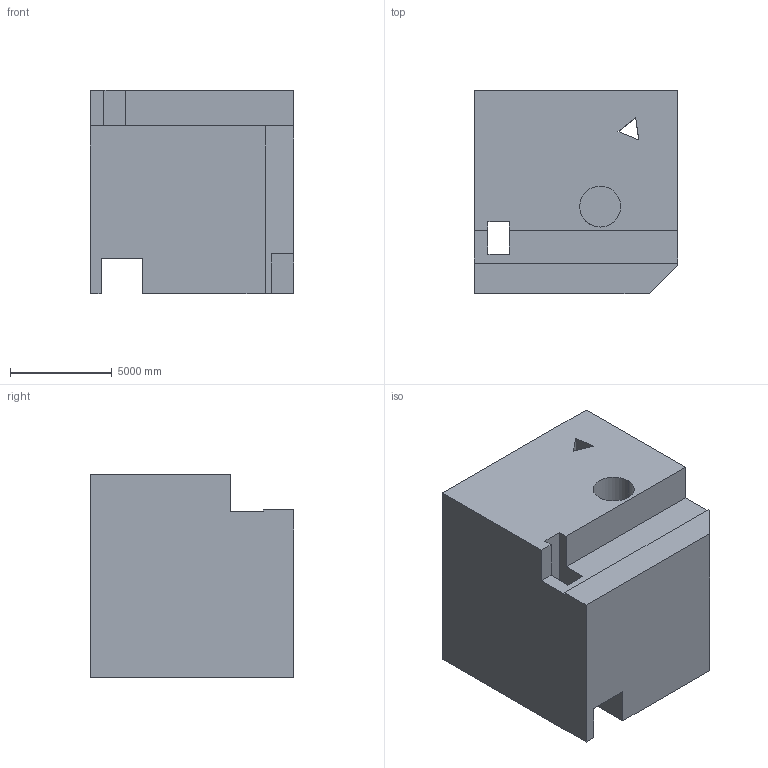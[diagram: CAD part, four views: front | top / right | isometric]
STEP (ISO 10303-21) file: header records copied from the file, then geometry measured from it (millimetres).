
FILE_DESCRIPTION (( 'STEP AP203' ), '1' );
FILE_NAME ('848.STEP', '2022-07-29T13:41:09', ( 'user' ), ( '' ), 'SwSTEP 2.0', 'SolidWorks 2021', '' );
FILE_SCHEMA (( 'CONFIG_CONTROL_DESIGN' ));
Length unit declared in the file: centimetre
Products named in the file (1): 848
Bounding box: 10000 x 10000 x 10000 mm (x, y, z)
Volume: 832902346399.3 mm3; surface area: 745513579.8 mm2
Topology: 1 solids, 1 shells, 32 faces, 93 edges, 62 vertices
Faces by surface type: plane 28, cylinder 4
Entity records: 1138 total; most frequent: CARTESIAN_POINT 188, ORIENTED_EDGE 186, DIRECTION 171, EDGE_CURVE 93, VECTOR 81, LINE 81, VERTEX_POINT 62, AXIS2_PLACEMENT_3D 45
